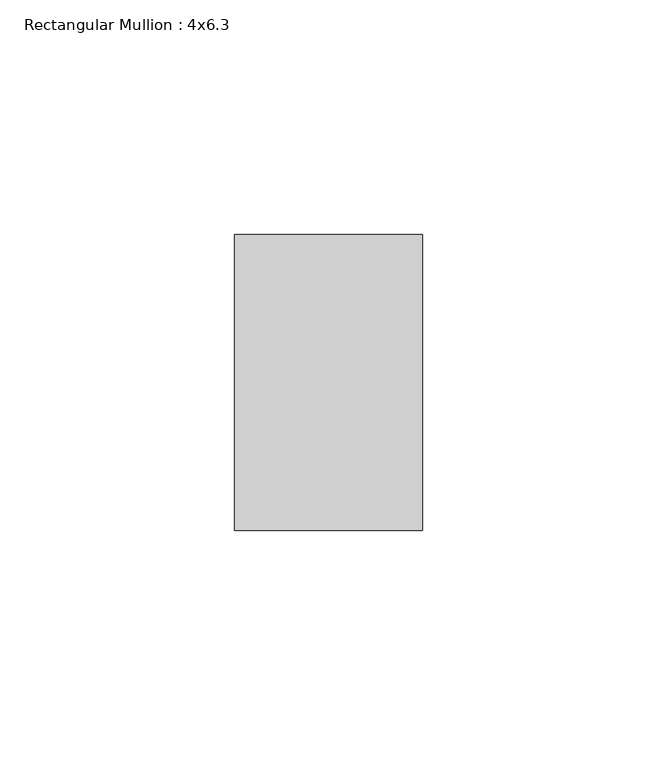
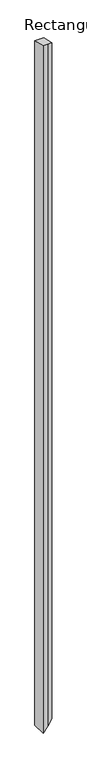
"""IFC4 building model written with IfcOpenShell, lengths in millimetres: member geometry, Rectangular Mullion : 4x6.3."""

import ifcopenshell
import ifcopenshell.guid

model = None  # the IFC model being written
_history = None  # IfcOwnerHistory: only IFC2X3 demands one
_inside = {}  # id of a spatial element -> (the spatial element, [elements in it])
_under = {}  # id of a project, library or spatial element -> (it, [spatial elements below it])
_declared = {}  # id of a project -> (the project, [libraries it declares])
_typed = {}  # id of a type object -> (the type object, [elements of that type])
_made_of = {}  # id of a material, layer set ... -> (it, [elements and type objects made of it])


def new_model(schema):
    """Start an empty IFC model of exactly this schema.

    Asked for "IFC4X3", IfcOpenShell would pick the latest addendum, in which some entities
    have other attributes; the version numbers below select the first issue.
    IFC2X3 requires an IfcOwnerHistory on every rooted entity: one is made here for all.
    """
    global model, _history
    if schema == "IFC4X3":
        model = ifcopenshell.file(schema_version=(4, 3, 0, 0))
    else:
        model = ifcopenshell.file(schema=schema)
    _inside.clear()
    _under.clear()
    _declared.clear()
    _typed.clear()
    _made_of.clear()
    _history = None
    if model.schema == "IFC2X3":
        org = make("IfcOrganization", Name="unknown")
        user = make(
            "IfcPersonAndOrganization",
            ThePerson=make("IfcPerson", FamilyName="unknown"),
            TheOrganization=org,
        )
        app = make(
            "IfcApplication",
            ApplicationDeveloper=org,
            Version="unknown",
            ApplicationFullName="unknown",
            ApplicationIdentifier="unknown",
        )
        _history = make(
            "IfcOwnerHistory",
            OwningUser=user,
            OwningApplication=app,
            ChangeAction="ADDED",
            CreationDate=0,
        )
    return model


def make(cls, **values):
    """One entity of the class cls with the attributes given. An attribute that is None is left unset."""
    return model.create_entity(
        cls, **{name: value for name, value in values.items() if value is not None}
    )


def rooted(cls, **values):
    """An entity with a GlobalId (a new one), such as an element, a storey or a relation."""
    return make(cls, GlobalId=ifcopenshell.guid.new(), OwnerHistory=_history, **values)


def si_unit(unit_type, name, prefix=None):
    """IfcSIUnit, for example si_unit("LENGTHUNIT", "METRE", prefix="MILLI")."""
    return make("IfcSIUnit", UnitType=unit_type, Prefix=prefix, Name=name)


def assignment(units):
    """IfcUnitAssignment: the units of a project."""
    return None if units is None else make("IfcUnitAssignment", Units=units)


def point(xyz):
    """IfcCartesianPoint."""
    return None if xyz is None else make("IfcCartesianPoint", Coordinates=xyz)


def direction(xyz):
    """IfcDirection."""
    return None if xyz is None else make("IfcDirection", DirectionRatios=xyz)


def frame(location, z_axis=None, x_axis=None):
    """IfcAxis2Placement3D, a coordinate frame: its origin and axes. An axis left out is left unset."""
    return make(
        "IfcAxis2Placement3D",
        Location=point(location),
        Axis=direction(z_axis),
        RefDirection=direction(x_axis),
    )


def origin():
    """The frame at (0, 0, 0) with its axes left unset."""
    return frame((0.0, 0.0, 0.0))


def place(relative_to, where):
    """IfcLocalPlacement: puts the frame where relative to a parent placement (None: the world)."""
    return make(
        "IfcLocalPlacement", PlacementRelTo=relative_to, RelativePlacement=where
    )


def context(
    kind, dimensions, precision=None, world=None, true_north=None, identifier=None
):
    """IfcGeometricRepresentationContext, for example the 3D "Model" context."""
    return make(
        "IfcGeometricRepresentationContext",
        ContextIdentifier=identifier,
        ContextType=kind,
        CoordinateSpaceDimension=dimensions,
        Precision=precision,
        WorldCoordinateSystem=world,
        TrueNorth=true_north,
    )


def project(units=None, contexts=None):
    """IfcProject with its units and contexts."""
    return rooted(
        "IfcProject",
        Name="project",
        RepresentationContexts=contexts,
        UnitsInContext=assignment(units),
    )


def spatial(cls, under=None, at=None, **own):
    """A site, building, storey or space (cls), placed at a placement, below another one or the project."""
    s = rooted(cls, ObjectPlacement=at, **own)
    if under is not None:
        _under.setdefault(under.id(), (under, []))[1].append(s)
    return s


def faces_of(points, faces, orient=None, outer=None):
    """IfcFace entities. A face is a list of loops; a loop is a list of indices into points, from 0.

    orient and outer hold one flag for each loop. By default every Orientation is true, the
    first loop of a face is its IfcFaceOuterBound and the others are IfcFaceBound.
    """
    made = []
    for i, loops in enumerate(faces):
        bounds = []
        for j, loop in enumerate(loops):
            is_outer = j == 0 if outer is None else outer[i][j]
            bounds.append(
                make(
                    "IfcFaceOuterBound" if is_outer else "IfcFaceBound",
                    Bound=make("IfcPolyLoop", Polygon=[points[k] for k in loop]),
                    Orientation=True if orient is None else orient[i][j],
                )
            )
        made.append(make("IfcFace", Bounds=bounds))
    return made


def faceted_brep(points, faces, orient=None, outer=None, voids=None):
    """IfcFacetedBrep: a solid bounded by flat faces; with voids (closed shells), ...WithVoids."""
    shared = [point(p) for p in points]
    hull = make("IfcClosedShell", CfsFaces=faces_of(shared, faces, orient, outer))
    if voids is None:
        return make("IfcFacetedBrep", Outer=hull)
    return make(
        "IfcFacetedBrepWithVoids",
        Outer=hull,
        Voids=[
            make(cls, CfsFaces=faces_of(shared, fs, o, b)) for cls, fs, o, b in voids
        ],
    )


def shape(context_of_items, identifier, shape_type, items):
    """IfcShapeRepresentation: the items that make up one representation, for example the "Body"."""
    return make(
        "IfcShapeRepresentation",
        ContextOfItems=context_of_items,
        RepresentationIdentifier=identifier,
        RepresentationType=shape_type,
        Items=items,
    )


def source(mapping_origin, context_of_items, identifier, shape_type, items):
    """IfcRepresentationMap: a shape defined once, which mapped items show again and again."""
    return make(
        "IfcRepresentationMap",
        MappingOrigin=mapping_origin,
        MappedRepresentation=shape(context_of_items, identifier, shape_type, items),
    )


def transform(
    local_origin,
    x_axis=None,
    y_axis=None,
    z_axis=None,
    scale=None,
    scale2=None,
    scale3=None,
    uniform=True,
):
    """IfcCartesianTransformationOperator3D, or its non-uniform kind. x_axis, y_axis, z_axis: its Axis1, 2, 3."""
    if uniform:
        return make(
            "IfcCartesianTransformationOperator3D",
            Axis1=direction(x_axis),
            Axis2=direction(y_axis),
            LocalOrigin=point(local_origin),
            Scale=scale,
            Axis3=direction(z_axis),
        )
    return make(
        "IfcCartesianTransformationOperator3DnonUniform",
        Axis1=direction(x_axis),
        Axis2=direction(y_axis),
        LocalOrigin=point(local_origin),
        Scale=scale,
        Axis3=direction(z_axis),
        Scale2=scale2,
        Scale3=scale3,
    )


def mapped(mapping_source, mapping_target):
    """IfcMappedItem: shows the shape of a source again, moved by a transform."""
    return make(
        "IfcMappedItem", MappingSource=mapping_source, MappingTarget=mapping_target
    )


def made_of(thing, what):
    """Note that an element or type object is made of a material, layer set ...; save() writes the relation."""
    if what is not None:
        _made_of.setdefault(what.id(), (what, []))[1].append(thing)
    return thing


def element(
    cls,
    number,
    at=None,
    inside=None,
    cuts=None,
    type_object=None,
    material=None,
    context=None,
    identifier="Body",
    shape_type=None,
    held_by="IfcProductDefinitionShape",
    body=None,
    shapes=None,
    **own,
):
    """One element of the class cls, such as IfcWall. Its Tag is "e" and its number.

    at: its placement. inside: the storey or other place that contains it. cuts: it is an
    opening in that element (IfcRelVoidsElement). A single representation is given by context,
    identifier, shape_type and body (its items); several are given by shapes. held_by: the class
    of the entity that holds the representations. save() writes the other relations.
    """
    e = rooted(cls, Tag="e%d" % number, ObjectPlacement=at, **own)
    if body is not None:
        shapes = [shape(context, identifier, shape_type, body)]
    if shapes is not None:
        e.Representation = make(held_by, Representations=shapes)
    if inside is not None:
        _inside.setdefault(inside.id(), (inside, []))[1].append(e)
    if cuts is not None:
        rooted(
            "IfcRelVoidsElement", RelatingBuildingElement=cuts, RelatedOpeningElement=e
        )
    if type_object is not None:
        _typed.setdefault(type_object.id(), (type_object, []))[1].append(e)
    return made_of(e, material)


def aggregate(whole, parts):
    """IfcRelAggregates: a whole, such as a stair, and the parts it consists of."""
    return rooted("IfcRelAggregates", RelatingObject=whole, RelatedObjects=parts)


def save(model, path):
    """Write the relations noted so far, then the file.

    IfcRelAggregates (storeys below a building ...), IfcRelContainedInSpatialStructure (elements
    in a storey), IfcRelDefinesByType, IfcRelAssociatesMaterial and IfcRelDeclares: one each for
    every whole, place, type object, material and project.
    """
    for whole, parts in _under.values():
        aggregate(whole, parts)
    for where, things in _inside.values():
        rooted(
            "IfcRelContainedInSpatialStructure",
            RelatedElements=things,
            RelatingStructure=where,
        )
    for kind, things in _typed.values():
        rooted("IfcRelDefinesByType", RelatedObjects=things, RelatingType=kind)
    for what, things in _made_of.values():
        rooted("IfcRelAssociatesMaterial", RelatedObjects=things, RelatingMaterial=what)
    for by, libraries in _declared.values():
        rooted("IfcRelDeclares", RelatingContext=by, RelatedDefinitions=libraries)
    model.write(path)


def rectangular_mullion_4x6_3_cbcd94e1(model_context):
    return source(origin(), model_context, "Body", "Brep", [
        faceted_brep([(0.0, 20.0, -4.3995804), (-20.0, 20.0, -4.3995804), (-20.0, 20.0, -3251.3234662), (0.0, 20.0, -3224.9027092), (20.0, 20.0, -4.3995804), (20.0, 20.0, -3198.4819523), (20.0, 83.0, -18.2582585), (20.0, 83.0, -3198.4819523), (-20.0, 83.0, -18.2582585), (-20.0, 83.0, -3251.3234662)], [[[0, 1, 2, 3]], [[4, 0, 3, 5]], [[6, 4, 5, 7]], [[8, 6, 7, 9]], [[1, 8, 9, 2]], [[1, 0, 4, 6, 8]], [[2, 9, 7, 5, 3]]]),
    ])


if __name__ == "__main__":
    model = new_model("IFC4")
    model_context = context("Model", 3, world=origin())
    ifc_project = project(units=[si_unit("LENGTHUNIT", "METRE", prefix="MILLI")], contexts=[model_context])
    site = spatial("IfcSite", under=ifc_project)
    building = spatial("IfcBuilding", under=site)
    placement = place(None, origin())
    rectangular_mullion_4x6_3_shape = rectangular_mullion_4x6_3_cbcd94e1(model_context)
    element("IfcMember", 1, ObjectType="Rectangular Mullion : 4x6.3", at=placement, inside=building, context=model_context, shape_type="MappedRepresentation", body=[
        mapped(rectangular_mullion_4x6_3_shape, transform((0.0, 0.0, 0.0), x_axis=(1.0, 0.0, 0.0), y_axis=(0.0, 1.0, 0.0), z_axis=(0.0, 0.0, 1.0))),
    ])
    save(model, "model.ifc")
